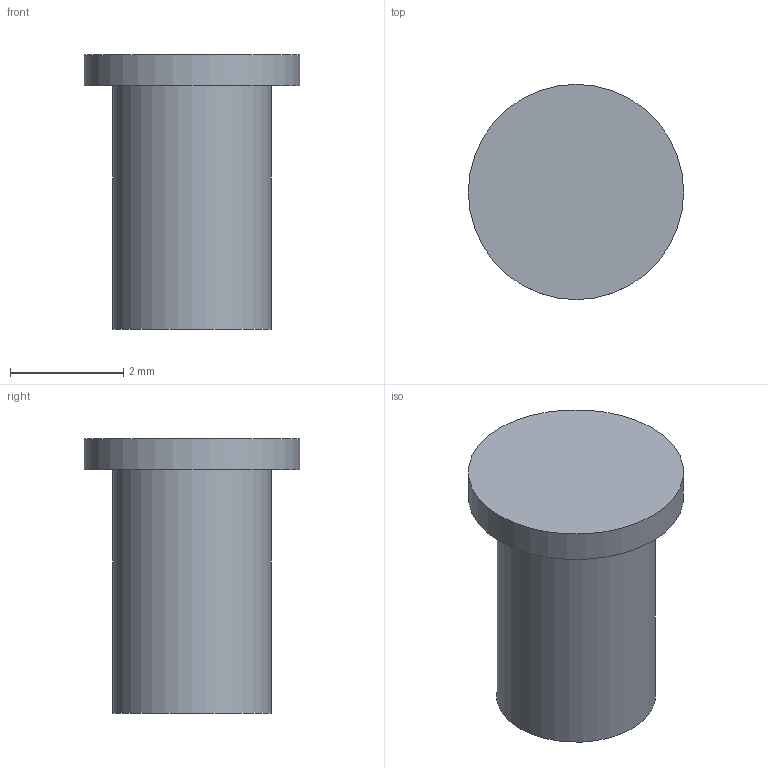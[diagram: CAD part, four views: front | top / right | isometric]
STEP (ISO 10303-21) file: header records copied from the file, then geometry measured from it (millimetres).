
FILE_DESCRIPTION(('Open CASCADE Model'),'2;1');
FILE_NAME('Open CASCADE Shape Model','2026-08-28T00:57:55',('Author'),( 'Open CASCADE'),'Open CASCADE STEP processor 7.8','Open CASCADE 7.8' ,'Unknown');
FILE_SCHEMA(('AUTOMOTIVE_DESIGN { 1 0 10303 214 1 1 1 1 }'));
Length unit declared in the file: millimetre
Products named in the file (1): Open CASCADE STEP translator 7.8 5
Bounding box: 3.8 x 3.8 x 4.85 mm (x, y, z)
Volume: 32.7 mm3; surface area: 67.1 mm2
Topology: 1 solids, 1 shells, 5 faces, 6 edges, 4 vertices
Faces by surface type: plane 3, cylinder 2
Full cylindrical faces by diameter (mm): 2.8 x1, 3.8 x1
Entity records: 192 total; most frequent: DIRECTION 34, CARTESIAN_POINT 28, ORIENTED_EDGE 12, PCURVE 12, DEFINITIONAL_REPRESENTATION 12, AXIS2_PLACEMENT_3D 10, LINE 10, VECTOR 10
